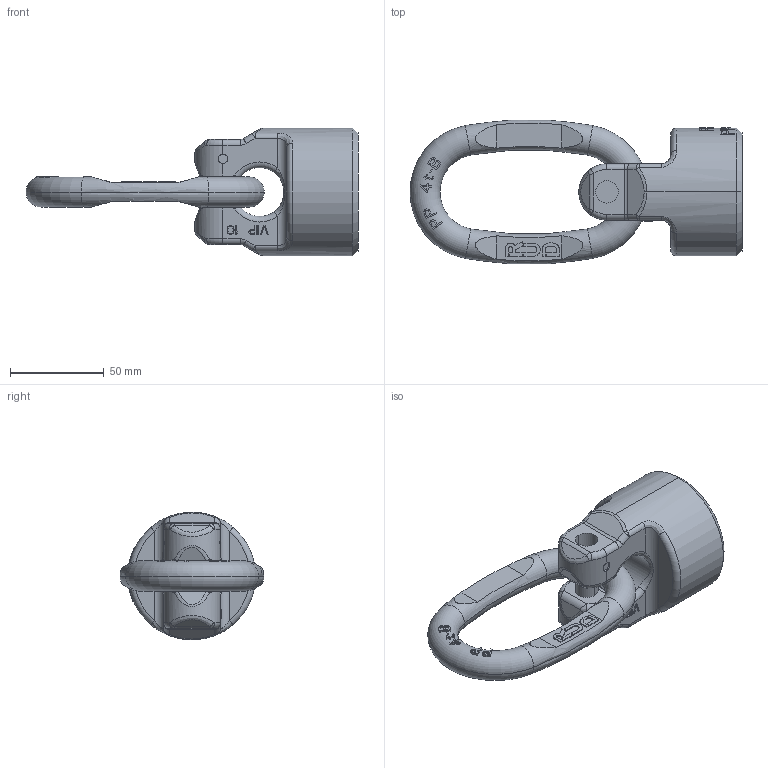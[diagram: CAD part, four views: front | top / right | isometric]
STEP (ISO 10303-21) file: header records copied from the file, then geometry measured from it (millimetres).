
FILE_DESCRIPTION((''),'2;1');
FILE_NAME('001-M31341-P-50_ASM','2018-04-26T',('Anja.Joas'),(''),'PRO/ENGINEER BY PARAMETRIC TECHNOLOGY CORPORATION, 2011490','PRO/ENGINEER BY PARAMETRIC TECHNOLOGY CORPORATION, 2011490','');
FILE_SCHEMA(('CONFIG_CONTROL_DESIGN'));
Length unit declared in the file: millimetre
Products named in the file (3): 001-M31341-P-20_AF0; 001-M31290-003; 001-M31341-P-50_ASM
Assembly tree (2 placements, depth 2):
  001-M31341-P-50_ASM
    001-M31341-P-20_AF0
    001-M31290-003
Bounding box: 177 x 76.57 x 68 mm (x, y, z)
Volume: 248451.2 mm3; surface area: 38355.3 mm2
Topology: 2 solids, 2 shells, 575 faces, 1525 edges, 990 vertices
Faces by surface type: plane 450, cylinder 61, torus 31, bspline 26, sphere 4, cone 2, extrusion 1
Entity records: 19774 total; most frequent: CARTESIAN_POINT 6005, ORIENTED_EDGE 3050, DIRECTION 2522, EDGE_CURVE 1525, VERTEX_POINT 990, VECTOR 922, LINE 921, AXIS2_PLACEMENT_3D 800
